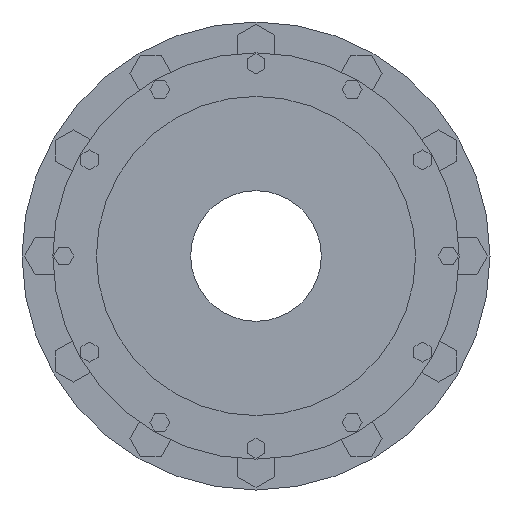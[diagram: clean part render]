
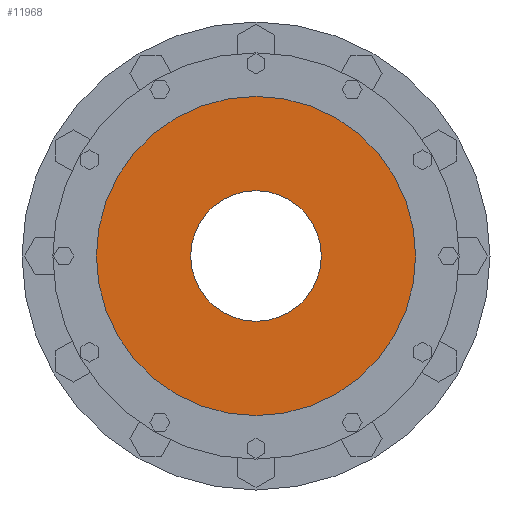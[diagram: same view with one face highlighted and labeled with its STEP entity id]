
A CAD part, left-side view. The second image highlights one B-rep face of the part: STEP entity #11968.
In plain terms, the highlighted planar face has unit normal (-1, 0, 0).
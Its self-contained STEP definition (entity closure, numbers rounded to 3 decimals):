
#11666=CARTESIAN_POINT('',(-340.,0.,0.));
#11667=DIRECTION('',(1.,0.,0.));
#11668=DIRECTION('',(0.,1.,0.));
#11669=AXIS2_PLACEMENT_3D('',#11666,#11667,#11668);
#11745=CARTESIAN_POINT('',(-340.,0.,0.));
#11746=DIRECTION('',(-1.,0.,0.));
#11747=DIRECTION('',(0.,1.,0.));
#11748=AXIS2_PLACEMENT_3D('',#11745,#11746,#11747);
#11750=CARTESIAN_POINT('',(-340.,0.,0.));
#11751=DIRECTION('',(1.,0.,0.));
#11752=DIRECTION('',(0.,1.,0.));
#11753=AXIS2_PLACEMENT_3D('',#11750,#11751,#11752);
#11764=CARTESIAN_POINT('',(-340.,0.,0.));
#11765=DIRECTION('',(-1.,0.,0.));
#11766=DIRECTION('',(0.,1.,0.));
#11767=AXIS2_PLACEMENT_3D('',#11764,#11765,#11766);
#11773=CARTESIAN_POINT('',(-340.,90.,0.));
#11774=CARTESIAN_POINT('',(-340.,-90.,0.));
#11775=VERTEX_POINT('',#11773);
#11776=VERTEX_POINT('',#11774);
#11777=CARTESIAN_POINT('',(-340.,220.,0.));
#11778=CARTESIAN_POINT('',(-340.,-220.,0.));
#11779=VERTEX_POINT('',#11777);
#11780=VERTEX_POINT('',#11778);
#11954=CARTESIAN_POINT('',(-340.,0.,0.));
#11955=DIRECTION('',(1.,0.,0.));
#11956=DIRECTION('',(0.,-1.,0.));
#11957=AXIS2_PLACEMENT_3D('',#11954,#11955,#11956);
#11958=PLANE('',#11957);
#11959=ORIENTED_EDGE('',*,*,#11936,.F.);
#11960=ORIENTED_EDGE('',*,*,#11949,.T.);
#11961=EDGE_LOOP('',(#11959,#11960));
#11962=FACE_OUTER_BOUND('',#11961,.F.);
#11963=ORIENTED_EDGE('',*,*,#11814,.F.);
#11965=ORIENTED_EDGE('',*,*,#11964,.T.);
#11966=EDGE_LOOP('',(#11963,#11965));
#11967=FACE_BOUND('',#11966,.F.);
#11968=ADVANCED_FACE('',(#11962,#11967),#11958,.F.);
#11670=CIRCLE('',#11669,90.);
#11749=CIRCLE('',#11748,220.);
#11754=CIRCLE('',#11753,220.);
#11768=CIRCLE('',#11767,90.);
#11814=EDGE_CURVE('',#11775,#11776,#11670,.T.);
#11936=EDGE_CURVE('',#11779,#11780,#11749,.T.);
#11949=EDGE_CURVE('',#11779,#11780,#11754,.T.);
#11964=EDGE_CURVE('',#11775,#11776,#11768,.T.);
